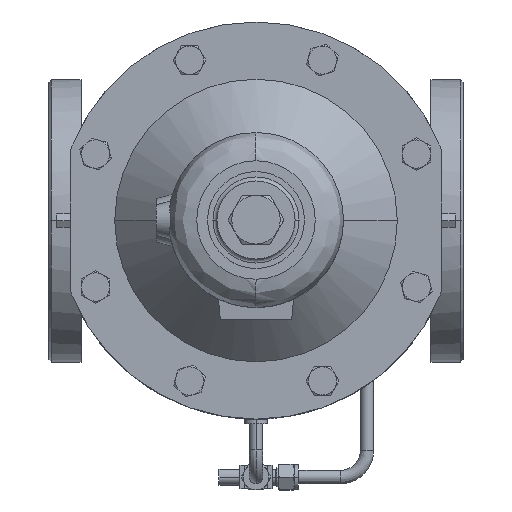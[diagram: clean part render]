
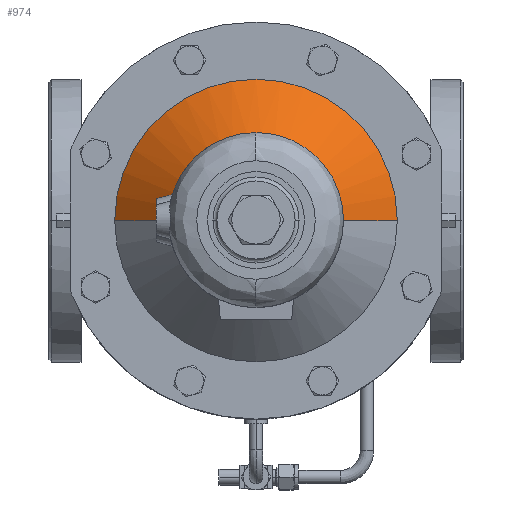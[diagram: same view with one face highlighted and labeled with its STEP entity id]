
A CAD part, top view. The second image highlights one B-rep face of the part: STEP entity #974.
In plain terms, the highlighted free-form (B-spline) face has degree [2, 1] with [5, 2] control points.
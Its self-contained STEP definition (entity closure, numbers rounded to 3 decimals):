
#974=ADVANCED_FACE('',(#5675),#5674,.T.);
#5674=( BOUNDED_SURFACE() B_SPLINE_SURFACE( 2,1,((#14160,#14161),(#14162,#14163),(#14164,#14165),(#14166,#14167),(#14168,#14169)), .UNSPECIFIED.,.F.,.F.,.F.) B_SPLINE_SURFACE_WITH_KNOTS((3,2,3),(2,2),(0.,0.5,1.),(0.,1.), .UNSPECIFIED. ) GEOMETRIC_REPRESENTATION_ITEM() RATIONAL_B_SPLINE_SURFACE(((1.,1.),(0.707,0.707),(1.,1.),(0.707,0.707),(1.,1.))) REPRESENTATION_ITEM('') SURFACE() );
#5675=FACE_OUTER_BOUND('',#14170,.T.);
#14160=CARTESIAN_POINT('',(-65.,0.,68.971));
#14161=CARTESIAN_POINT('',(-104.971,0.,29.));
#14162=CARTESIAN_POINT('',(-65.,65.,68.971));
#14163=CARTESIAN_POINT('',(-104.971,104.971,29.));
#14164=CARTESIAN_POINT('',(0.,65.,68.971));
#14165=CARTESIAN_POINT('',(0.,104.971,29.));
#14166=CARTESIAN_POINT('',(65.,65.,68.971));
#14167=CARTESIAN_POINT('',(104.971,104.971,29.));
#14168=CARTESIAN_POINT('',(65.,0.,68.971));
#14169=CARTESIAN_POINT('',(104.971,0.,29.));
#14170=EDGE_LOOP('',(#18496,#18497,#18498,#18499,#18500,#18501));
#18496=ORIENTED_EDGE('',*,*,#20855,.F.);
#18497=ORIENTED_EDGE('',*,*,#20970,.F.);
#18498=ORIENTED_EDGE('',*,*,#20965,.T.);
#18499=ORIENTED_EDGE('',*,*,#20962,.T.);
#18500=ORIENTED_EDGE('',*,*,#20961,.T.);
#18501=ORIENTED_EDGE('',*,*,#20971,.T.);
#20855=EDGE_CURVE('',#29115,#29114,#29122,.T.);
#20961=EDGE_CURVE('',#29829,#29821,#29830,.T.);
#20962=EDGE_CURVE('',#29836,#29829,#29837,.T.);
#20965=EDGE_CURVE('',#29855,#29836,#29856,.T.);
#20970=EDGE_CURVE('',#29855,#29115,#29889,.T.);
#20971=EDGE_CURVE('',#29821,#29114,#29895,.T.);
#29114=VERTEX_POINT('',#41804);
#29115=VERTEX_POINT('',#41805);
#29122=CIRCLE('',#41813,104.971);
#29821=VERTEX_POINT('',#42373);
#29829=VERTEX_POINT('',#42379);
#29830=CIRCLE('',#42383,65.);
#29836=VERTEX_POINT('',#42384);
#29837=CIRCLE('',#42388,65.);
#29855=VERTEX_POINT('',#42393);
#29856=CIRCLE('',#42397,65.);
#29889=(BOUNDED_CURVE() B_SPLINE_CURVE(1,(#42517,#42518),.UNSPECIFIED.,.F.,.F.) B_SPLINE_CURVE_WITH_KNOTS((2,2),(0.,1.),.UNSPECIFIED.) CURVE() GEOMETRIC_REPRESENTATION_ITEM() RATIONAL_B_SPLINE_CURVE((1.,1.)) REPRESENTATION_ITEM('') );
#29895=(BOUNDED_CURVE() B_SPLINE_CURVE(1,(#42519,#42520),.UNSPECIFIED.,.F.,.F.) B_SPLINE_CURVE_WITH_KNOTS((2,2),(0.,1.),.UNSPECIFIED.) CURVE() GEOMETRIC_REPRESENTATION_ITEM() RATIONAL_B_SPLINE_CURVE((0.75,0.75)) REPRESENTATION_ITEM('') );
#41804=CARTESIAN_POINT('',(104.971,0.,29.));
#41805=CARTESIAN_POINT('',(-104.971,0.,29.));
#41810=CARTESIAN_POINT('',(0.,0.,29.));
#41811=DIRECTION('',(0.,0.,-1.));
#41812=DIRECTION('',(1.,0.,0.));
#41813=AXIS2_PLACEMENT_3D('',#41810,#41811,#41812);
#42373=CARTESIAN_POINT('',(65.,0.,68.971));
#42379=CARTESIAN_POINT('',(43.07,48.682,68.971));
#42380=CARTESIAN_POINT('',(0.,0.,68.971));
#42381=DIRECTION('',(0.,0.,-1.));
#42382=DIRECTION('',(0.663,0.749,0.));
#42383=AXIS2_PLACEMENT_3D('',#42380,#42381,#42382);
#42384=CARTESIAN_POINT('',(42.214,49.426,68.971));
#42385=CARTESIAN_POINT('',(0.,0.,68.971));
#42386=DIRECTION('',(0.,0.,-1.));
#42387=DIRECTION('',(0.663,0.749,0.));
#42388=AXIS2_PLACEMENT_3D('',#42385,#42386,#42387);
#42393=CARTESIAN_POINT('',(-65.,0.,68.971));
#42394=CARTESIAN_POINT('',(0.,0.,68.971));
#42395=DIRECTION('',(0.,0.,-1.));
#42396=DIRECTION('',(0.663,0.749,0.));
#42397=AXIS2_PLACEMENT_3D('',#42394,#42395,#42396);
#42517=CARTESIAN_POINT('',(-65.,0.,68.971));
#42518=CARTESIAN_POINT('',(-104.971,0.,29.));
#42519=CARTESIAN_POINT('',(65.,0.,68.971));
#42520=CARTESIAN_POINT('',(104.971,0.,29.));
